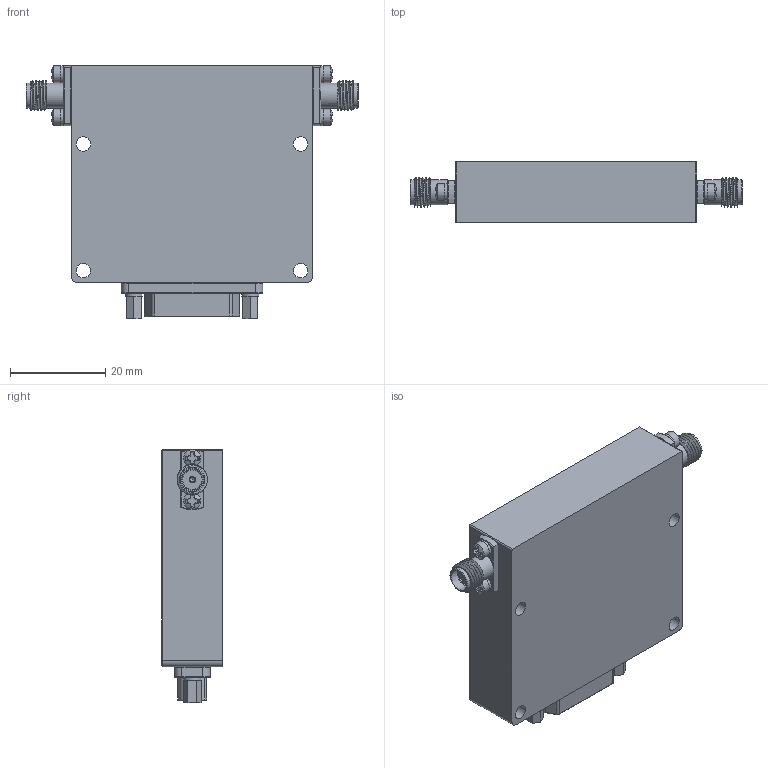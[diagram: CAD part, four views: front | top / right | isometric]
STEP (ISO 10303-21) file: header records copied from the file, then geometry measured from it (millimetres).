
FILE_DESCRIPTION (( 'STEP AP214' ), '1' );
FILE_NAME ('DTA-2G18G-60-12-CD-1-20DBM-TS-NSI.STEP', '2025-01-14T19:05:18', ( '' ), ( '' ), 'SwSTEP 2.0', 'SolidWorks 2024', '' );
FILE_SCHEMA (( 'AUTOMOTIVE_DESIGN' ));
Length unit declared in the file: inch
Products named in the file (1): DTA-2G18G-60-12-CD-1-20DBM-TS-NSI
Bounding box: 69.85 x 12.83 x 53.26 mm (x, y, z)
Volume: 31188.6 mm3; surface area: 15333.8 mm2
Topology: 21 solids, 21 shells, 1079 faces, 3846 edges, 3017 vertices
Faces by surface type: plane 557, cylinder 258, cone 165, torus 87, bspline 8, sphere 4
Full cylindrical faces by diameter (mm): 0.305 x2, 0.381 x2, 0.559 x25, 0.584 x25, 0.838 x50, 1.016 x5, 1.27 x4, 2.184 x6, 2.388 x2, 2.591 x4, 3.048 x4, 3.302 x2, 3.556 x4, 4.191 x4, 4.597 x2, 5.283 x4
Entity records: 61791 total; most frequent: CARTESIAN_POINT 17673, ORIENTED_EDGE 6724, DIRECTION 5435, EDGE_CURVE 3362, VERTEX_POINT 2826, AXIS2_PLACEMENT_3D 1931, EDGE_LOOP 1650, LINE 1573
